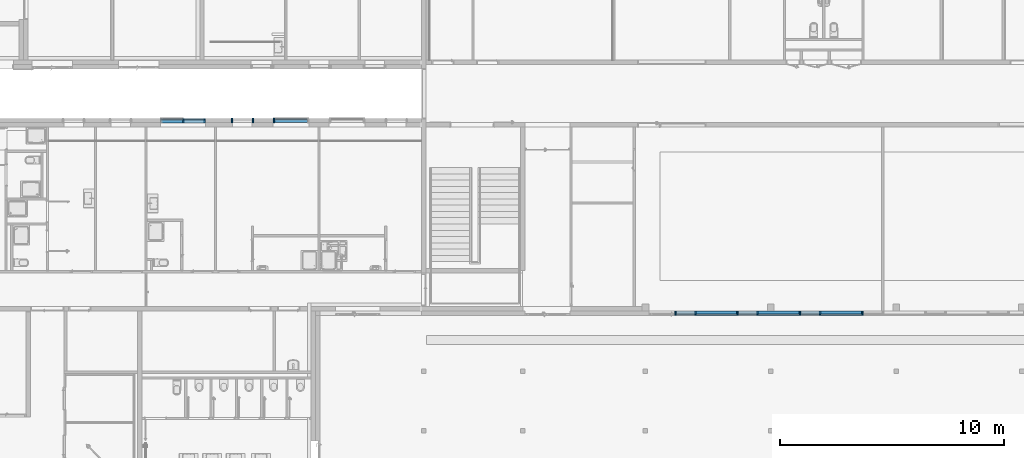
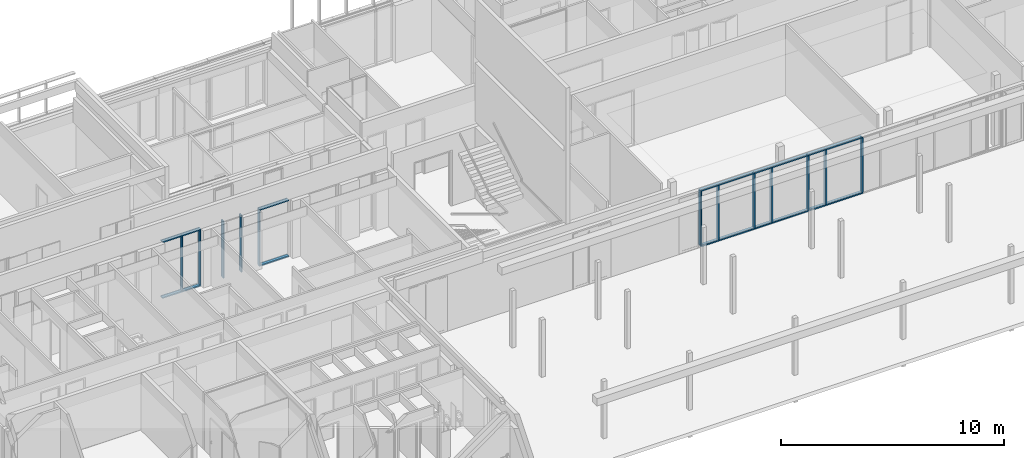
# One storey, part 14 of 240: 28 members, 4 elements without a shape of their own.
"""IFC2X3 building model written with IfcOpenShell, lengths in centimetres."""

from ifc_helpers import new_model, entity, si_unit, converted_unit, derived_unit, direction, frame, origin, place, context, subcontext, project, spatial, polyline, outline, extrude, source, transform, mapped, material, type_object, type_shapes, element, aggregate, save


model = new_model("IFC2X3")

# Units and contexts
model_context = context("Model", 3, precision=0.001, world=origin(), true_north=direction((6.12303176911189e-17, 1.0)))
body_context = subcontext(model_context, "Body", "Model", "MODEL_VIEW")
ifc_project = project(units=[si_unit("LENGTHUNIT", "METRE", prefix="CENTI"), si_unit("AREAUNIT", "SQUARE_METRE"), si_unit("VOLUMEUNIT", "CUBIC_METRE"), converted_unit("PLANEANGLEUNIT", "DEGREE", entity("IfcRatioMeasure", 0.0174532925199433), si_unit("PLANEANGLEUNIT", "RADIAN"), dimensions=[0, 0, 0, 0, 0, 0, 0]), si_unit("MASSUNIT", "GRAM", prefix="KILO"), derived_unit("MASSDENSITYUNIT", [(si_unit("MASSUNIT", "GRAM", prefix="KILO"), 1), (si_unit("LENGTHUNIT", "METRE"), -3)]), si_unit("TIMEUNIT", "SECOND"), si_unit("FREQUENCYUNIT", "HERTZ"), si_unit("THERMODYNAMICTEMPERATUREUNIT", "DEGREE_CELSIUS"), derived_unit("THERMALTRANSMITTANCEUNIT", [(si_unit("MASSUNIT", "GRAM", prefix="KILO"), 1), (si_unit("THERMODYNAMICTEMPERATUREUNIT", "KELVIN"), -1), (si_unit("TIMEUNIT", "SECOND"), -3)]), derived_unit("VOLUMETRICFLOWRATEUNIT", [(si_unit("LENGTHUNIT", "METRE"), 3), (si_unit("TIMEUNIT", "SECOND"), -1)]), si_unit("ELECTRICCURRENTUNIT", "AMPERE"), si_unit("ELECTRICVOLTAGEUNIT", "VOLT"), si_unit("POWERUNIT", "WATT"), si_unit("FORCEUNIT", "NEWTON", prefix="KILO"), si_unit("ILLUMINANCEUNIT", "LUX"), si_unit("LUMINOUSFLUXUNIT", "LUMEN"), si_unit("LUMINOUSINTENSITYUNIT", "CANDELA"), derived_unit("USERDEFINED", [(si_unit("MASSUNIT", "GRAM", prefix="KILO"), -1), (si_unit("LENGTHUNIT", "METRE"), -2), (si_unit("TIMEUNIT", "SECOND"), 3), (si_unit("LUMINOUSFLUXUNIT", "LUMEN"), 1)]), derived_unit("LINEARVELOCITYUNIT", [(si_unit("LENGTHUNIT", "METRE"), 1), (si_unit("TIMEUNIT", "SECOND"), -1)]), si_unit("PRESSUREUNIT", "PASCAL"), derived_unit("USERDEFINED", [(si_unit("LENGTHUNIT", "METRE"), -2), (si_unit("MASSUNIT", "GRAM", prefix="KILO"), 1), (si_unit("TIMEUNIT", "SECOND"), -2)])], contexts=[model_context])

# Site, building, storey
site_placement = place(None, frame((-2781.94577612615, 7442.24238424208, 0.0)))
site = spatial("IfcSite", under=ifc_project, at=site_placement, Name="Default", CompositionType="ELEMENT")
building_placement = place(site_placement, origin())
building = spatial("IfcBuilding", under=site, at=building_placement, CompositionType="ELEMENT")
storey_placement = place(building_placement, origin())
storey = spatial("IfcBuildingStorey", under=building, at=storey_placement, Name="N00 - COO", CompositionType="ELEMENT", Elevation=0.0)

# Curtain wall, members
curtain_wall_type_1 = type_object("IfcCurtainWallType", Name="Mur-rideau:07 - mur rideau trame 280 cm", PredefinedType="NOTDEFINED")
curtain_wall_1_placement = place(building_placement, origin())
curtain_wall_1 = element("IfcCurtainWall", 1, at=curtain_wall_1_placement, inside=storey, type_object=curtain_wall_type_1, Name="Mur-rideau:07 - mur rideau trame 280 cm", ObjectType="Mur-rideau:07 - mur rideau trame 280 cm")
ifc_material = material(Name="Aluminium")
member_type_1 = type_object("IfcMemberType", Name="150 x 25mm Détails", PredefinedType="MEMBER")
shared_shape_1 = source(origin(), body_context, "Body", "SweptSolid", [
    extrude(outline(polyline([(-5.66666666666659, -3.25), (-3.66666666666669, -3.25), (-3.66666666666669, -0.868749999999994), (-0.166666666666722, -0.868749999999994), (-0.166666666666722, -3.25000000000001), (13.3333333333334, -3.24999999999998), (13.3333333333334, 3.25000000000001), (-0.166666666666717, 3.25000000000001), (-0.166666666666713, 0.868749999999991), (-3.66666666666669, 0.868749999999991), (-3.66666666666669, 3.24999999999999), (-5.66666666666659, 3.24999999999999), (-5.66666666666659, -3.25)])), frame((-3.24999999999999, -1.96666666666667, -299.5), z_axis=(0.0, 0.0, 1.0), x_axis=(0.0, -1.0, 0.0)), (0.0, 0.0, 1.0), 299.5),
])
type_shapes(member_type_1, [shared_shape_1])
member_1_placement = place(building_placement, frame((-6652.74987760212, -1946.27903364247, 306.0), z_axis=(0.0, 0.0, 1.0), x_axis=(-1.0, 0.0, 0.0)))
member_1 = element("IfcMember", 2, at=member_1_placement, type_object=member_type_1, material=ifc_material, Name="Meneau rectangulaire:150 x 25mm Détails", ObjectType="Meneau rectangulaire:150 x 25mm Détails", context=body_context, shape_type="MappedRepresentation", body=[
    mapped(shared_shape_1, transform((0.0, 0.0, 0.0), scale=1.0)),
])
member_2_placement = place(building_placement, frame((-6932.74987760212, -1946.27903364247, 306.0), z_axis=(0.0, 0.0, 1.0), x_axis=(-1.0, 0.0, 0.0)))
member_2 = element("IfcMember", 3, at=member_2_placement, type_object=member_type_1, material=ifc_material, Name="Meneau rectangulaire:150 x 25mm Détails", ObjectType="Meneau rectangulaire:150 x 25mm Détails", context=body_context, shape_type="MappedRepresentation", body=[
    mapped(shared_shape_1, transform((0.0, 0.0, 0.0), scale=1.0)),
])
member_3_placement = place(building_placement, frame((-7209.4998776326, -1946.27903364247, 306.0), z_axis=(0.0, 0.0, 1.0), x_axis=(-1.0, 0.0, 0.0)))
member_3 = element("IfcMember", 4, at=member_3_placement, type_object=member_type_1, material=ifc_material, Name="Meneau rectangulaire:150 x 25mm Détails", ObjectType="Meneau rectangulaire:150 x 25mm Détails", context=body_context, shape_type="MappedRepresentation", body=[
    mapped(shared_shape_1, transform((0.0, 0.0, 0.0), scale=1.0)),
])
member_type_2 = type_object("IfcMemberType", Name="150 x 25mm Détails", PredefinedType="MEMBER")
shared_shape_2 = source(origin(), body_context, "Body", "SweptSolid", [
    extrude(outline(polyline([(-5.6666666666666, -3.24999999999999), (-3.66666666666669, -3.24999999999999), (-3.66666666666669, -0.868749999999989), (-0.166666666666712, -0.868749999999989), (-0.166666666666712, -3.25000000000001), (13.3333333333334, -3.25000000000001), (13.3333333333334, 3.24999999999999), (-0.16666666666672, 3.24999999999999), (-0.16666666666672, 0.868749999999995), (-3.66666666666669, 0.868749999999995), (-3.66666666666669, 3.25), (-5.6666666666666, 3.25), (-5.6666666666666, -3.24999999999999)])), frame((-3.24999999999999, -1.96666666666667, -299.5), z_axis=(0.0, 0.0, 1.0), x_axis=(0.0, -1.0, 0.0)), (0.0, 0.0, 1.0), 299.5),
])
type_shapes(member_type_2, [shared_shape_2])
member_4_placement = place(building_placement, frame((-6736.24987760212, -1946.27903364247, 6.5), z_axis=(0.0, 0.0, -1.0), x_axis=(1.0, 0.0, 0.0)))
member_4 = element("IfcMember", 5, at=member_4_placement, type_object=member_type_2, material=ifc_material, Name="Meneau rectangulaire:150 x 25mm Détails", ObjectType="Meneau rectangulaire:150 x 25mm Détails", context=body_context, shape_type="MappedRepresentation", body=[
    mapped(shared_shape_2, transform((0.0, 0.0, 0.0), scale=1.0)),
])
member_5_placement = place(building_placement, frame((-7016.24987760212, -1946.27903364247, 6.49999999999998), z_axis=(0.0, 0.0, -1.0), x_axis=(1.0, 0.0, 0.0)))
member_5 = element("IfcMember", 6, at=member_5_placement, type_object=member_type_2, material=ifc_material, Name="Meneau rectangulaire:150 x 25mm Détails", ObjectType="Meneau rectangulaire:150 x 25mm Détails", context=body_context, shape_type="MappedRepresentation", body=[
    mapped(shared_shape_2, transform((0.0, 0.0, 0.0), scale=1.0)),
])
member_6_placement = place(building_placement, frame((-6456.24987760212, -1946.27903364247, 6.5), z_axis=(0.0, 0.0, -1.0), x_axis=(1.0, 0.0, 0.0)))
member_6 = element("IfcMember", 7, at=member_6_placement, type_object=member_type_2, material=ifc_material, Name="Meneau rectangulaire:150 x 25mm Détails", ObjectType="Meneau rectangulaire:150 x 25mm Détails", context=body_context, shape_type="MappedRepresentation", body=[
    mapped(shared_shape_2, transform((0.0, 0.0, 0.0), scale=1.0)),
])
member_7_placement = place(building_placement, frame((-7292.9998776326, -1946.27903364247, 6.49999999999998), z_axis=(0.0, 0.0, -1.0), x_axis=(1.0, 0.0, 0.0)))
member_7 = element("IfcMember", 8, at=member_7_placement, type_object=member_type_2, material=ifc_material, Name="Meneau rectangulaire:150 x 25mm Détails", ObjectType="Meneau rectangulaire:150 x 25mm Détails", context=body_context, shape_type="MappedRepresentation", body=[
    mapped(shared_shape_2, transform((0.0, 0.0, 0.0), scale=1.0)),
])

curtain_wall_type_2 = type_object("IfcCurtainWallType", Name="Mur-rideau:07 - mur rideau trame 100cm", PredefinedType="NOTDEFINED")
curtain_wall_2_placement = place(storey_placement, origin())
curtain_wall_2 = element("IfcCurtainWall", 9, at=curtain_wall_2_placement, inside=storey, type_object=curtain_wall_type_2, Name="Mur-rideau:07 - mur rideau trame 100cm", ObjectType="Mur-rideau:07 - mur rideau trame 100cm")
member_type_3 = type_object("IfcMemberType", Name="150 x 25mm Détails", PredefinedType="MEMBER")
shared_shape_3 = source(origin(), body_context, "Body", "SweptSolid", [
    extrude(outline(polyline([(-13.3333333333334, -3.25000000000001), (0.166666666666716, -3.25000000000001), (0.166666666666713, -0.86874999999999), (3.66666666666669, -0.86874999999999), (3.66666666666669, -3.24999999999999), (5.66666666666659, -3.24999999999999), (5.66666666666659, 3.25), (3.66666666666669, 3.25), (3.66666666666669, 0.868749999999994), (0.166666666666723, 0.868749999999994), (0.166666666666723, 3.25000000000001), (-13.3333333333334, 3.24999999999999), (-13.3333333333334, -3.25000000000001)])), frame((-3.24999999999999, 1.96666666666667, -312.5), z_axis=(0.0, 0.0, 1.0), x_axis=(0.0, -1.0, 0.0)), (0.0, 0.0, 1.0), 312.5),
])
type_shapes(member_type_3, [shared_shape_3])
member_8_placement = place(storey_placement, frame((-9179.49987766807, -1073.69999990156, 0.0), z_axis=(0.0, 0.0, -1.0), x_axis=(1.0, 0.0, 0.0)))
member_8 = element("IfcMember", 10, at=member_8_placement, type_object=member_type_3, material=ifc_material, Name="Meneau rectangulaire:150 x 25mm Détails", ObjectType="Meneau rectangulaire:150 x 25mm Détails", context=body_context, shape_type="MappedRepresentation", body=[
    mapped(shared_shape_3, transform((0.0, 0.0, 0.0), scale=1.0)),
])
member_type_4 = type_object("IfcMemberType", Name="150 x 25mm Détails", PredefinedType="MEMBER")
shared_shape_4 = source(origin(), body_context, "Body", "SweptSolid", [
    extrude(outline(polyline([(-13.3333333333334, -3.24999999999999), (0.166666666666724, -3.24999999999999), (0.166666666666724, -0.868749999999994), (3.66666666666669, -0.868749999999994), (3.66666666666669, -3.25), (5.6666666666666, -3.25), (5.6666666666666, 3.24999999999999), (3.66666666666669, 3.24999999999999), (3.66666666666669, 0.86874999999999), (0.166666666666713, 0.86874999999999), (0.166666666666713, 3.25000000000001), (-13.3333333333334, 3.25000000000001), (-13.3333333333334, -3.24999999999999)])), frame((-3.24999999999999, 1.96666666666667, -312.5), z_axis=(0.0, 0.0, 1.0), x_axis=(0.0, -1.0, 0.0)), (0.0, 0.0, 1.0), 312.5),
])
type_shapes(member_type_4, [shared_shape_4])
member_9_placement = place(storey_placement, frame((-9279.49987766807, -1073.69999990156, 312.5), z_axis=(0.0, 0.0, 1.0), x_axis=(-1.0, 0.0, 0.0)))
member_9 = element("IfcMember", 11, at=member_9_placement, type_object=member_type_4, material=ifc_material, Name="Meneau rectangulaire:150 x 25mm Détails", ObjectType="Meneau rectangulaire:150 x 25mm Détails", context=body_context, shape_type="MappedRepresentation", body=[
    mapped(shared_shape_4, transform((0.0, 0.0, 0.0), scale=1.0)),
])
aggregate(curtain_wall_2, [member_8, member_9])

curtain_wall_3_placement = place(building_placement, origin())
curtain_wall_3 = element("IfcCurtainWall", 12, at=curtain_wall_3_placement, inside=storey, type_object=curtain_wall_type_2, Name="Mur-rideau:07 - mur rideau trame 100cm", ObjectType="Mur-rideau:07 - mur rideau trame 100cm")
member_type_5 = type_object("IfcMemberType", Name="150 x 25mm Détails", PredefinedType="MEMBER")
shared_shape_5 = source(origin(), body_context, "Body", "SweptSolid", [
    extrude(outline(polyline([(-13.3333333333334, -3.25000000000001), (0.166666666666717, -3.25000000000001), (0.166666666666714, -0.86874999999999), (3.66666666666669, -0.86874999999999), (3.66666666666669, -3.24999999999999), (5.6666666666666, -3.24999999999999), (5.6666666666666, 3.25), (3.66666666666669, 3.25), (3.66666666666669, 0.868749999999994), (0.166666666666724, 0.868749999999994), (0.166666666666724, 3.25000000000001), (-13.3333333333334, 3.24999999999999), (-13.3333333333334, -3.25000000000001)])), frame((-3.24999999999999, 1.96666666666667, -299.5), z_axis=(0.0, 0.0, 1.0), x_axis=(0.0, -1.0, 0.0)), (0.0, 0.0, 1.0), 299.5),
])
type_shapes(member_type_5, [shared_shape_5])
member_10_placement = place(building_placement, frame((-9394.49987766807, -1074.89999990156, 6.49999999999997), z_axis=(0.0, 0.0, -1.0), x_axis=(1.0, 0.0, 0.0)))
member_10 = element("IfcMember", 13, at=member_10_placement, type_object=member_type_5, material=ifc_material, Name="Meneau rectangulaire:150 x 25mm Détails", ObjectType="Meneau rectangulaire:150 x 25mm Détails", context=body_context, shape_type="MappedRepresentation", body=[
    mapped(shared_shape_5, transform((0.0, 0.0, 0.0), scale=1.0)),
])
member_11_placement = place(building_placement, frame((-9487.99987766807, -1074.89999990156, 6.5), z_axis=(0.0, 0.0, -1.0), x_axis=(1.0, 0.0, 0.0)))
member_11 = element("IfcMember", 14, at=member_11_placement, type_object=member_type_5, material=ifc_material, Name="Meneau rectangulaire:150 x 25mm Détails", ObjectType="Meneau rectangulaire:150 x 25mm Détails", context=body_context, shape_type="MappedRepresentation", body=[
    mapped(shared_shape_5, transform((0.0, 0.0, 0.0), scale=1.0)),
])

# Curtain wall, member
curtain_wall_type_3 = type_object("IfcCurtainWallType", Name="Mur-rideau:07 - mur rideau trame 160cm", PredefinedType="NOTDEFINED")
curtain_wall_4_placement = place(building_placement, origin())
curtain_wall_4 = element("IfcCurtainWall", 15, at=curtain_wall_4_placement, inside=storey, type_object=curtain_wall_type_3, Name="Mur-rideau:07 - mur rideau trame 160cm", ObjectType="Mur-rideau:07 - mur rideau trame 160cm")
member_type_6 = type_object("IfcMemberType", Name="150 x 25mm Détails", PredefinedType="MEMBER")
shared_shape_6 = source(origin(), body_context, "Body", "SweptSolid", [
    extrude(outline(polyline([(-5.6666666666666, -3.24999999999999), (-3.66666666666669, -3.24999999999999), (-3.66666666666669, -0.868749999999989), (-0.166666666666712, -0.868749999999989), (-0.166666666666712, -3.25000000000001), (13.3333333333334, -3.25000000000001), (13.3333333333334, 3.24999999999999), (-0.16666666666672, 3.24999999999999), (-0.16666666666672, 0.868749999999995), (-3.66666666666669, 0.868749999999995), (-3.66666666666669, 3.25), (-5.6666666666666, 3.25), (-5.6666666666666, -3.24999999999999)])), frame((-3.24999999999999, -1.96666666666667, -312.5), z_axis=(0.0, 0.0, 1.0), x_axis=(0.0, -1.0, 0.0)), (0.0, 0.0, 1.0), 312.5),
])
type_shapes(member_type_6, [shared_shape_6])
member_12_placement = place(building_placement, frame((-9091.99987766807, -1073.69999990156, 0.0), z_axis=(0.0, 0.0, -1.0), x_axis=(-1.0, 0.0, 0.0)))
member_12 = element("IfcMember", 16, at=member_12_placement, type_object=member_type_6, material=ifc_material, Name="Meneau rectangulaire:150 x 25mm Détails", ObjectType="Meneau rectangulaire:150 x 25mm Détails", context=body_context, shape_type="MappedRepresentation", body=[
    mapped(shared_shape_6, transform((0.0, 0.0, 0.0), scale=1.0)),
])

# Member
member_type_7 = type_object("IfcMemberType", Name="150 x 25mm Détails", PredefinedType="MEMBER")
shared_shape_7 = source(origin(), body_context, "Body", "SweptSolid", [
    extrude(outline(polyline([(-5.66666666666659, -3.25), (-3.66666666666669, -3.25), (-3.66666666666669, -0.868749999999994), (-0.166666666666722, -0.868749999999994), (-0.166666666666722, -3.25000000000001), (13.3333333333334, -3.24999999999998), (13.3333333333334, 3.25000000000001), (-0.166666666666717, 3.25000000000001), (-0.166666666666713, 0.868749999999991), (-3.66666666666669, 0.868749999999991), (-3.66666666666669, 3.24999999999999), (-5.66666666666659, 3.24999999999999), (-5.66666666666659, -3.25)])), frame((-3.24999999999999, -1.96666666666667, -280.0), z_axis=(0.0, 0.0, 1.0), x_axis=(0.0, -1.0, 0.0)), (0.0, 0.0, 1.0), 280.00000003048),
])
type_shapes(member_type_7, [shared_shape_7])
member_13_placement = place(building_placement, frame((-7299.4998776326, -1946.27903364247, 0.0), z_axis=(-1.0, 0.0, 0.0), x_axis=(0.0, 0.0, -1.0)))
member_13 = element("IfcMember", 17, at=member_13_placement, type_object=member_type_7, material=ifc_material, Name="Meneau rectangulaire:150 x 25mm Détails", ObjectType="Meneau rectangulaire:150 x 25mm Détails", context=body_context, shape_type="MappedRepresentation", body=[
    mapped(shared_shape_7, transform((0.0, 0.0, 0.0), scale=1.0)),
])

member_type_8 = type_object("IfcMemberType", Name="150 x 25mm Détails", PredefinedType="MEMBER")
shared_shape_8 = source(origin(), body_context, "Body", "SweptSolid", [
    extrude(outline(polyline([(-5.66666666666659, -3.25), (-3.66666666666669, -3.25), (-3.66666666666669, -0.868749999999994), (-0.166666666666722, -0.868749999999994), (-0.166666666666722, -3.25000000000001), (13.3333333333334, -3.24999999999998), (13.3333333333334, 3.25000000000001), (-0.166666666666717, 3.25000000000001), (-0.166666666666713, 0.868749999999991), (-3.66666666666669, 0.868749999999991), (-3.66666666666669, 3.24999999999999), (-5.66666666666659, 3.24999999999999), (-5.66666666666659, -3.25)])), frame((-3.24999999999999, -1.96666666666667, -280.0), z_axis=(0.0, 0.0, 1.0), x_axis=(0.0, -1.0, 0.0)), (0.0, 0.0, 1.0), 280.0),
])
type_shapes(member_type_8, [shared_shape_8])
member_14_placement = place(building_placement, frame((-7019.49987760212, -1946.27903364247, 0.0), z_axis=(-1.0, 0.0, 0.0), x_axis=(0.0, 0.0, -1.0)))
member_14 = element("IfcMember", 18, at=member_14_placement, type_object=member_type_8, material=ifc_material, Name="Meneau rectangulaire:150 x 25mm Détails", ObjectType="Meneau rectangulaire:150 x 25mm Détails", context=body_context, shape_type="MappedRepresentation", body=[
    mapped(shared_shape_8, transform((0.0, 0.0, 0.0), scale=1.0)),
])

member_15_placement = place(building_placement, frame((-6739.49987760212, -1946.27903364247, 0.0), z_axis=(-1.0, 0.0, 0.0), x_axis=(0.0, 0.0, -1.0)))
member_15 = element("IfcMember", 19, at=member_15_placement, type_object=member_type_8, material=ifc_material, Name="Meneau rectangulaire:150 x 25mm Détails", ObjectType="Meneau rectangulaire:150 x 25mm Détails", context=body_context, shape_type="MappedRepresentation", body=[
    mapped(shared_shape_8, transform((0.0, 0.0, 0.0), scale=1.0)),
])

member_type_9 = type_object("IfcMemberType", Name="150 x 25mm Détails", PredefinedType="MEMBER")
shared_shape_9 = source(origin(), body_context, "Body", "SweptSolid", [
    extrude(outline(polyline([(-5.66666666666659, -3.25), (-3.66666666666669, -3.25), (-3.66666666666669, -0.868749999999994), (-0.166666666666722, -0.868749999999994), (-0.166666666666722, -3.25000000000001), (13.3333333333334, -3.24999999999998), (13.3333333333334, 3.25000000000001), (-0.166666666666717, 3.25000000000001), (-0.166666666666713, 0.868749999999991), (-3.66666666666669, 0.868749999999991), (-3.66666666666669, 3.24999999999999), (-5.66666666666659, 3.24999999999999), (-5.66666666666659, -3.25)])), frame((-3.24999999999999, -1.96666666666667, -298.0), z_axis=(0.0, 0.0, 1.0), x_axis=(0.0, -1.0, 0.0)), (0.0, 0.0, 1.0), 298.0),
])
type_shapes(member_type_9, [shared_shape_9])
member_16_placement = place(building_placement, frame((-7299.4998776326, -1946.27903364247, 304.5), z_axis=(0.0, 0.0, 1.0), x_axis=(-1.0, 0.0, 0.0)))
member_16 = element("IfcMember", 20, at=member_16_placement, type_object=member_type_9, material=ifc_material, Name="Meneau rectangulaire:150 x 25mm Détails", ObjectType="Meneau rectangulaire:150 x 25mm Détails", context=body_context, shape_type="MappedRepresentation", body=[
    mapped(shared_shape_9, transform((0.0, 0.0, 0.0), scale=1.0)),
])

member_type_10 = type_object("IfcMemberType", Name="150 x 25mm Détails", PredefinedType="MEMBER")
shared_shape_10 = source(origin(), body_context, "Body", "SweptSolid", [
    extrude(outline(polyline([(-5.66666666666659, -3.24999999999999), (-3.66666666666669, -3.24999999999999), (-3.66666666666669, -0.86874999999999), (-0.166666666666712, -0.86874999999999), (-0.166666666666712, -3.25000000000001), (13.3333333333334, -3.25000000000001), (13.3333333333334, 3.24999999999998), (-0.166666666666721, 3.24999999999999), (-0.166666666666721, 0.868749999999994), (-3.66666666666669, 0.868749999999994), (-3.66666666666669, 3.25), (-5.66666666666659, 3.25), (-5.66666666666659, -3.24999999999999)])), frame((0.0, -1.96666666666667, -298.0), z_axis=(0.0, 0.0, 1.0), x_axis=(0.0, -1.0, 0.0)), (0.0, 0.0, 1.0), 298.0),
])
type_shapes(member_type_10, [shared_shape_10])
member_17_placement = place(building_placement, frame((-7019.49987760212, -1946.27903364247, 6.49999999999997), z_axis=(0.0, 0.0, -1.0), x_axis=(1.0, 0.0, 0.0)))
member_17 = element("IfcMember", 21, at=member_17_placement, type_object=member_type_10, material=ifc_material, Name="Meneau rectangulaire:150 x 25mm Détails", ObjectType="Meneau rectangulaire:150 x 25mm Détails", context=body_context, shape_type="MappedRepresentation", body=[
    mapped(shared_shape_10, transform((0.0, 0.0, 0.0), scale=1.0)),
])

member_18_placement = place(building_placement, frame((-6739.49987760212, -1946.27903364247, 6.49999999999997), z_axis=(0.0, 0.0, -1.0), x_axis=(1.0, 0.0, 0.0)))
member_18 = element("IfcMember", 22, at=member_18_placement, type_object=member_type_10, material=ifc_material, Name="Meneau rectangulaire:150 x 25mm Détails", ObjectType="Meneau rectangulaire:150 x 25mm Détails", context=body_context, shape_type="MappedRepresentation", body=[
    mapped(shared_shape_10, transform((0.0, 0.0, 0.0), scale=1.0)),
])

member_19_placement = place(building_placement, frame((-6459.49987760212, -1946.27903364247, 6.49999999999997), z_axis=(0.0, 0.0, -1.0), x_axis=(1.0, 0.0, 0.0)))
member_19 = element("IfcMember", 23, at=member_19_placement, type_object=member_type_10, material=ifc_material, Name="Meneau rectangulaire:150 x 25mm Détails", ObjectType="Meneau rectangulaire:150 x 25mm Détails", context=body_context, shape_type="MappedRepresentation", body=[
    mapped(shared_shape_10, transform((0.0, 0.0, 0.0), scale=1.0)),
])

member_type_11 = type_object("IfcMemberType", Name="150 x 25mm Détails", PredefinedType="MEMBER")
shared_shape_11 = source(origin(), body_context, "Body", "SweptSolid", [
    extrude(outline(polyline([(-5.6666666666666, -3.24999999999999), (-3.66666666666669, -3.24999999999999), (-3.66666666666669, -0.868749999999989), (-0.166666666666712, -0.868749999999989), (-0.166666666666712, -3.25000000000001), (13.3333333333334, -3.25000000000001), (13.3333333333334, 3.24999999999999), (-0.16666666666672, 3.24999999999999), (-0.16666666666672, 0.868749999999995), (-3.66666666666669, 0.868749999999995), (-3.66666666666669, 3.25), (-5.6666666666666, 3.25), (-5.6666666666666, -3.24999999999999)])), frame((-3.24999999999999, -1.96666666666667, -280.0), z_axis=(0.0, 0.0, 1.0), x_axis=(0.0, -1.0, 0.0)), (0.0, 0.0, 1.0), 280.00000003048),
])
type_shapes(member_type_11, [shared_shape_11])
member_20_placement = place(building_placement, frame((-7019.49987760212, -1946.27903364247, 311.0), z_axis=(1.0, 0.0, 0.0), x_axis=(0.0, 0.0, 1.0)))
member_20 = element("IfcMember", 24, at=member_20_placement, type_object=member_type_11, material=ifc_material, Name="Meneau rectangulaire:150 x 25mm Détails", ObjectType="Meneau rectangulaire:150 x 25mm Détails", context=body_context, shape_type="MappedRepresentation", body=[
    mapped(shared_shape_11, transform((0.0, 0.0, 0.0), scale=1.0)),
])

member_type_12 = type_object("IfcMemberType", Name="150 x 25mm Détails", PredefinedType="MEMBER")
shared_shape_12 = source(origin(), body_context, "Body", "SweptSolid", [
    extrude(outline(polyline([(-5.6666666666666, -3.24999999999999), (-3.66666666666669, -3.24999999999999), (-3.66666666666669, -0.868749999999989), (-0.166666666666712, -0.868749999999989), (-0.166666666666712, -3.25000000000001), (13.3333333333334, -3.25000000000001), (13.3333333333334, 3.24999999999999), (-0.16666666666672, 3.24999999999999), (-0.16666666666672, 0.868749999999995), (-3.66666666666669, 0.868749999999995), (-3.66666666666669, 3.25), (-5.6666666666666, 3.25), (-5.6666666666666, -3.24999999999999)])), frame((-3.24999999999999, -1.96666666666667, -280.0), z_axis=(0.0, 0.0, 1.0), x_axis=(0.0, -1.0, 0.0)), (0.0, 0.0, 1.0), 280.0),
])
type_shapes(member_type_12, [shared_shape_12])
member_21_placement = place(building_placement, frame((-6739.49987760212, -1946.27903364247, 311.0), z_axis=(1.0, 0.0, 0.0), x_axis=(0.0, 0.0, 1.0)))
member_21 = element("IfcMember", 25, at=member_21_placement, type_object=member_type_12, material=ifc_material, Name="Meneau rectangulaire:150 x 25mm Détails", ObjectType="Meneau rectangulaire:150 x 25mm Détails", context=body_context, shape_type="MappedRepresentation", body=[
    mapped(shared_shape_12, transform((0.0, 0.0, 0.0), scale=1.0)),
])

member_22_placement = place(building_placement, frame((-6459.49987760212, -1946.27903364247, 311.0), z_axis=(1.0, 0.0, 0.0), x_axis=(0.0, 0.0, 1.0)))
member_22 = element("IfcMember", 26, at=member_22_placement, type_object=member_type_12, material=ifc_material, Name="Meneau rectangulaire:150 x 25mm Détails", ObjectType="Meneau rectangulaire:150 x 25mm Détails", context=body_context, shape_type="MappedRepresentation", body=[
    mapped(shared_shape_12, transform((0.0, 0.0, 0.0), scale=1.0)),
])

aggregate(curtain_wall_1, [member_13, member_14, member_15, member_16, member_17, member_18, member_19, member_1, member_4, member_2, member_5, member_6, member_3, member_7, member_20, member_21, member_22])

member_type_13 = type_object("IfcMemberType", Name="150 x 25mm Détails", PredefinedType="MEMBER")
shared_shape_13 = source(origin(), body_context, "Body", "SweptSolid", [
    extrude(outline(polyline([(-5.66666666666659, -3.24999999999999), (-3.66666666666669, -3.24999999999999), (-3.66666666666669, -0.868749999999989), (-0.166666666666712, -0.868749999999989), (-0.166666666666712, -3.25000000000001), (13.3333333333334, -3.25000000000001), (13.3333333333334, 3.24999999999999), (-0.166666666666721, 3.24999999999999), (-0.166666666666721, 0.868749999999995), (-3.66666666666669, 0.868749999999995), (-3.66666666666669, 3.25), (-5.66666666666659, 3.25), (-5.66666666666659, -3.24999999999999)])), frame((-3.24999999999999, -1.96666666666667, -147.0), z_axis=(0.0, 0.0, 1.0), x_axis=(0.0, -1.0, 0.0)), (0.0, 0.0, 1.0), 147.0),
])
type_shapes(member_type_13, [shared_shape_13])
member_23_placement = place(building_placement, frame((-9085.49987766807, -1073.69999990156, 312.5), z_axis=(-1.0, 0.0, 0.0), x_axis=(0.0, 0.0, 1.0)))
member_23 = element("IfcMember", 27, at=member_23_placement, type_object=member_type_13, material=ifc_material, Name="Meneau rectangulaire:150 x 25mm Détails", ObjectType="Meneau rectangulaire:150 x 25mm Détails", context=body_context, shape_type="MappedRepresentation", body=[
    mapped(shared_shape_13, transform((0.0, 0.0, 0.0), scale=1.0)),
])

member_type_14 = type_object("IfcMemberType", Name="150 x 25mm Détails", PredefinedType="MEMBER")
shared_shape_14 = source(origin(), body_context, "Body", "SweptSolid", [
    extrude(outline(polyline([(-5.66666666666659, -3.25), (-3.66666666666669, -3.25), (-3.66666666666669, -0.868749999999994), (-0.166666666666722, -0.868749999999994), (-0.166666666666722, -3.25000000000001), (13.3333333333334, -3.24999999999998), (13.3333333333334, 3.25000000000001), (-0.166666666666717, 3.25000000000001), (-0.166666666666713, 0.868749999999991), (-3.66666666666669, 0.868749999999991), (-3.66666666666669, 3.24999999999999), (-5.66666666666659, 3.24999999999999), (-5.66666666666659, -3.25)])), frame((-3.24999999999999, -1.96666666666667, -147.0), z_axis=(0.0, 0.0, 1.0), x_axis=(0.0, -1.0, 0.0)), (0.0, 0.0, 1.0), 147.0),
])
type_shapes(member_type_14, [shared_shape_14])
member_24_placement = place(building_placement, frame((-8938.49987766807, -1073.69999990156, 0.0), z_axis=(1.0, 0.0, 0.0), x_axis=(0.0, 0.0, -1.0)))
member_24 = element("IfcMember", 28, at=member_24_placement, type_object=member_type_14, material=ifc_material, Name="Meneau rectangulaire:150 x 25mm Détails", ObjectType="Meneau rectangulaire:150 x 25mm Détails", context=body_context, shape_type="MappedRepresentation", body=[
    mapped(shared_shape_14, transform((0.0, 0.0, 0.0), scale=1.0)),
])

aggregate(curtain_wall_4, [member_23, member_24, member_12])

member_type_15 = type_object("IfcMemberType", Name="150 x 25mm Détails", PredefinedType="MEMBER")
shared_shape_15 = source(origin(), body_context, "Body", "SweptSolid", [
    extrude(outline(polyline([(-13.3333333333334, -3.25000000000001), (0.166666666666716, -3.25000000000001), (0.166666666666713, -0.86874999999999), (3.66666666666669, -0.86874999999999), (3.66666666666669, -3.24999999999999), (5.66666666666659, -3.24999999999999), (5.66666666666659, 3.25), (3.66666666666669, 3.25), (3.66666666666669, 0.868749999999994), (0.166666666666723, 0.868749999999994), (0.166666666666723, 3.25000000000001), (-13.3333333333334, 3.24999999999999), (-13.3333333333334, -3.25000000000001)])), frame((-3.24999999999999, 1.96666666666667, -100.0), z_axis=(0.0, 0.0, 1.0), x_axis=(0.0, -1.0, 0.0)), (0.0, 0.0, 1.0), 99.9999999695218),
])
type_shapes(member_type_15, [shared_shape_15])
member_25_placement = place(building_placement, frame((-9394.49987766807, -1074.89999990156, 312.5), z_axis=(1.0, 0.0, 0.0), x_axis=(0.0, 0.0, 1.0)))
member_25 = element("IfcMember", 29, at=member_25_placement, type_object=member_type_15, material=ifc_material, Name="Meneau rectangulaire:150 x 25mm Détails", ObjectType="Meneau rectangulaire:150 x 25mm Détails", context=body_context, shape_type="MappedRepresentation", body=[
    mapped(shared_shape_15, transform((0.0, 0.0, 0.0), scale=1.0)),
])

member_type_16 = type_object("IfcMemberType", Name="150 x 25mm Détails", PredefinedType="MEMBER")
shared_shape_16 = source(origin(), body_context, "Body", "SweptSolid", [
    extrude(outline(polyline([(-13.3333333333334, -3.25000000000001), (0.166666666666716, -3.25000000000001), (0.166666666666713, -0.86874999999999), (3.66666666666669, -0.86874999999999), (3.66666666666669, -3.24999999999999), (5.66666666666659, -3.24999999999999), (5.66666666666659, 3.25), (3.66666666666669, 3.25), (3.66666666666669, 0.868749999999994), (0.166666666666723, 0.868749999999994), (0.166666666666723, 3.25000000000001), (-13.3333333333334, 3.24999999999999), (-13.3333333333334, -3.25000000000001)])), frame((-3.24999999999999, 1.96666666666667, -100.0), z_axis=(0.0, 0.0, 1.0), x_axis=(0.0, -1.0, 0.0)), (0.0, 0.0, 1.0), 100.000000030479),
])
type_shapes(member_type_16, [shared_shape_16])
member_26_placement = place(building_placement, frame((-9494.49987763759, -1074.89999990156, 312.5), z_axis=(1.0, 0.0, 0.0), x_axis=(0.0, 0.0, 1.0)))
member_26 = element("IfcMember", 30, at=member_26_placement, type_object=member_type_16, material=ifc_material, Name="Meneau rectangulaire:150 x 25mm Détails", ObjectType="Meneau rectangulaire:150 x 25mm Détails", context=body_context, shape_type="MappedRepresentation", body=[
    mapped(shared_shape_16, transform((0.0, 0.0, 0.0), scale=1.0)),
])

member_type_17 = type_object("IfcMemberType", Name="150 x 25mm Détails", PredefinedType="MEMBER")
shared_shape_17 = source(origin(), body_context, "Body", "SweptSolid", [
    extrude(outline(polyline([(-13.3333333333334, -3.24999999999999), (0.166666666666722, -3.24999999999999), (0.166666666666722, -0.868749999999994), (3.66666666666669, -0.868749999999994), (3.66666666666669, -3.25), (5.66666666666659, -3.25), (5.66666666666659, 3.24999999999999), (3.66666666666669, 3.24999999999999), (3.66666666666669, 0.86874999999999), (0.166666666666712, 0.86874999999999), (0.166666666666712, 3.25000000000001), (-13.3333333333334, 3.25000000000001), (-13.3333333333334, -3.24999999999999)])), frame((-3.24999999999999, 1.96666666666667, -100.0), z_axis=(0.0, 0.0, 1.0), x_axis=(0.0, -1.0, 0.0)), (0.0, 0.0, 1.0), 100.000000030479),
])
type_shapes(member_type_17, [shared_shape_17])
member_27_placement = place(building_placement, frame((-9594.49987766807, -1074.89999990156, 0.0), z_axis=(-1.0, 0.0, 0.0), x_axis=(0.0, 0.0, -1.0)))
member_27 = element("IfcMember", 31, at=member_27_placement, type_object=member_type_17, material=ifc_material, Name="Meneau rectangulaire:150 x 25mm Détails", ObjectType="Meneau rectangulaire:150 x 25mm Détails", context=body_context, shape_type="MappedRepresentation", body=[
    mapped(shared_shape_17, transform((0.0, 0.0, 0.0), scale=1.0)),
])

member_type_18 = type_object("IfcMemberType", Name="150 x 25mm Détails", PredefinedType="MEMBER")
shared_shape_18 = source(origin(), body_context, "Body", "SweptSolid", [
    extrude(outline(polyline([(-13.3333333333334, -3.24999999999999), (0.166666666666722, -3.24999999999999), (0.166666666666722, -0.868749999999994), (3.66666666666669, -0.868749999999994), (3.66666666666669, -3.25), (5.66666666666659, -3.25), (5.66666666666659, 3.24999999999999), (3.66666666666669, 3.24999999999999), (3.66666666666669, 0.86874999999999), (0.166666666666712, 0.86874999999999), (0.166666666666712, 3.25000000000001), (-13.3333333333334, 3.25000000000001), (-13.3333333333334, -3.24999999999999)])), frame((-3.24999999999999, 1.96666666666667, -100.0), z_axis=(0.0, 0.0, 1.0), x_axis=(0.0, -1.0, 0.0)), (0.0, 0.0, 1.0), 99.9999999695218),
])
type_shapes(member_type_18, [shared_shape_18])
member_28_placement = place(building_placement, frame((-9494.49987763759, -1074.89999990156, 0.0), z_axis=(-1.0, 0.0, 0.0), x_axis=(0.0, 0.0, -1.0)))
member_28 = element("IfcMember", 32, at=member_28_placement, type_object=member_type_18, material=ifc_material, Name="Meneau rectangulaire:150 x 25mm Détails", ObjectType="Meneau rectangulaire:150 x 25mm Détails", context=body_context, shape_type="MappedRepresentation", body=[
    mapped(shared_shape_18, transform((0.0, 0.0, 0.0), scale=1.0)),
])

aggregate(curtain_wall_3, [member_10, member_25, member_26, member_11, member_27, member_28])

save(model, "model.ifc")
